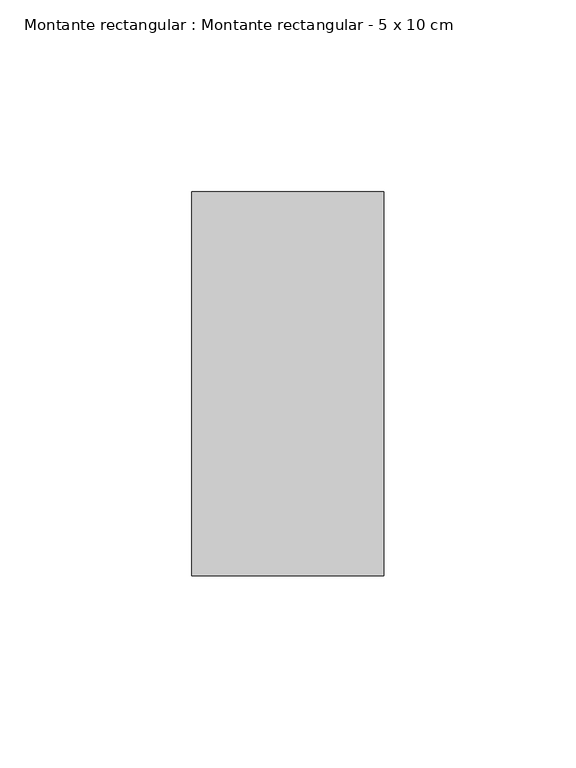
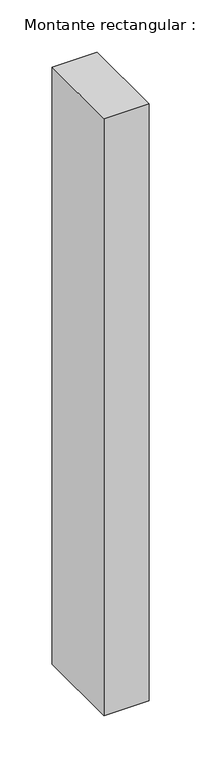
"""IFC4 building model written with IfcOpenShell, lengths in millimetres: member geometry, Montante rectangular : Montante rectangular - 5 x 10 cm."""

import ifcopenshell
import ifcopenshell.guid

model = None  # the IFC model being written
_history = None  # IfcOwnerHistory: only IFC2X3 demands one
_inside = {}  # id of a spatial element -> (the spatial element, [elements in it])
_under = {}  # id of a project, library or spatial element -> (it, [spatial elements below it])
_declared = {}  # id of a project -> (the project, [libraries it declares])
_typed = {}  # id of a type object -> (the type object, [elements of that type])
_made_of = {}  # id of a material, layer set ... -> (it, [elements and type objects made of it])


def new_model(schema):
    """Start an empty IFC model of exactly this schema.

    Asked for "IFC4X3", IfcOpenShell would pick the latest addendum, in which some entities
    have other attributes; the version numbers below select the first issue.
    IFC2X3 requires an IfcOwnerHistory on every rooted entity: one is made here for all.
    """
    global model, _history
    if schema == "IFC4X3":
        model = ifcopenshell.file(schema_version=(4, 3, 0, 0))
    else:
        model = ifcopenshell.file(schema=schema)
    _inside.clear()
    _under.clear()
    _declared.clear()
    _typed.clear()
    _made_of.clear()
    _history = None
    if model.schema == "IFC2X3":
        org = make("IfcOrganization", Name="unknown")
        user = make(
            "IfcPersonAndOrganization",
            ThePerson=make("IfcPerson", FamilyName="unknown"),
            TheOrganization=org,
        )
        app = make(
            "IfcApplication",
            ApplicationDeveloper=org,
            Version="unknown",
            ApplicationFullName="unknown",
            ApplicationIdentifier="unknown",
        )
        _history = make(
            "IfcOwnerHistory",
            OwningUser=user,
            OwningApplication=app,
            ChangeAction="ADDED",
            CreationDate=0,
        )
    return model


def make(cls, **values):
    """One entity of the class cls with the attributes given. An attribute that is None is left unset."""
    return model.create_entity(
        cls, **{name: value for name, value in values.items() if value is not None}
    )


def rooted(cls, **values):
    """An entity with a GlobalId (a new one), such as an element, a storey or a relation."""
    return make(cls, GlobalId=ifcopenshell.guid.new(), OwnerHistory=_history, **values)


def si_unit(unit_type, name, prefix=None):
    """IfcSIUnit, for example si_unit("LENGTHUNIT", "METRE", prefix="MILLI")."""
    return make("IfcSIUnit", UnitType=unit_type, Prefix=prefix, Name=name)


def assignment(units):
    """IfcUnitAssignment: the units of a project."""
    return None if units is None else make("IfcUnitAssignment", Units=units)


def point(xyz):
    """IfcCartesianPoint."""
    return None if xyz is None else make("IfcCartesianPoint", Coordinates=xyz)


def direction(xyz):
    """IfcDirection."""
    return None if xyz is None else make("IfcDirection", DirectionRatios=xyz)


def frame(location, z_axis=None, x_axis=None):
    """IfcAxis2Placement3D, a coordinate frame: its origin and axes. An axis left out is left unset."""
    return make(
        "IfcAxis2Placement3D",
        Location=point(location),
        Axis=direction(z_axis),
        RefDirection=direction(x_axis),
    )


def origin():
    """The frame at (0, 0, 0) with its axes left unset."""
    return frame((0.0, 0.0, 0.0))


def place(relative_to, where):
    """IfcLocalPlacement: puts the frame where relative to a parent placement (None: the world)."""
    return make(
        "IfcLocalPlacement", PlacementRelTo=relative_to, RelativePlacement=where
    )


def context(
    kind, dimensions, precision=None, world=None, true_north=None, identifier=None
):
    """IfcGeometricRepresentationContext, for example the 3D "Model" context."""
    return make(
        "IfcGeometricRepresentationContext",
        ContextIdentifier=identifier,
        ContextType=kind,
        CoordinateSpaceDimension=dimensions,
        Precision=precision,
        WorldCoordinateSystem=world,
        TrueNorth=true_north,
    )


def project(units=None, contexts=None):
    """IfcProject with its units and contexts."""
    return rooted(
        "IfcProject",
        Name="project",
        RepresentationContexts=contexts,
        UnitsInContext=assignment(units),
    )


def spatial(cls, under=None, at=None, **own):
    """A site, building, storey or space (cls), placed at a placement, below another one or the project."""
    s = rooted(cls, ObjectPlacement=at, **own)
    if under is not None:
        _under.setdefault(under.id(), (under, []))[1].append(s)
    return s


def polyline(points):
    """IfcPolyline through the points."""
    return make("IfcPolyline", Points=[point(p) for p in points])


def outline(outer, holes=None, kind="AREA"):
    """IfcArbitraryClosedProfileDef: a profile drawn as a closed curve; with holes, ...WithVoids."""
    if holes is None:
        return make("IfcArbitraryClosedProfileDef", ProfileType=kind, OuterCurve=outer)
    return make(
        "IfcArbitraryProfileDefWithVoids",
        ProfileType=kind,
        OuterCurve=outer,
        InnerCurves=holes,
    )


def extrude(swept, where, along, depth):
    """IfcExtrudedAreaSolid: the profile swept, set in the frame where, extruded along a direction by depth."""
    return make(
        "IfcExtrudedAreaSolid",
        SweptArea=swept,
        Position=where,
        ExtrudedDirection=direction(along),
        Depth=depth,
    )


def shape(context_of_items, identifier, shape_type, items):
    """IfcShapeRepresentation: the items that make up one representation, for example the "Body"."""
    return make(
        "IfcShapeRepresentation",
        ContextOfItems=context_of_items,
        RepresentationIdentifier=identifier,
        RepresentationType=shape_type,
        Items=items,
    )


def source(mapping_origin, context_of_items, identifier, shape_type, items):
    """IfcRepresentationMap: a shape defined once, which mapped items show again and again."""
    return make(
        "IfcRepresentationMap",
        MappingOrigin=mapping_origin,
        MappedRepresentation=shape(context_of_items, identifier, shape_type, items),
    )


def transform(
    local_origin,
    x_axis=None,
    y_axis=None,
    z_axis=None,
    scale=None,
    scale2=None,
    scale3=None,
    uniform=True,
):
    """IfcCartesianTransformationOperator3D, or its non-uniform kind. x_axis, y_axis, z_axis: its Axis1, 2, 3."""
    if uniform:
        return make(
            "IfcCartesianTransformationOperator3D",
            Axis1=direction(x_axis),
            Axis2=direction(y_axis),
            LocalOrigin=point(local_origin),
            Scale=scale,
            Axis3=direction(z_axis),
        )
    return make(
        "IfcCartesianTransformationOperator3DnonUniform",
        Axis1=direction(x_axis),
        Axis2=direction(y_axis),
        LocalOrigin=point(local_origin),
        Scale=scale,
        Axis3=direction(z_axis),
        Scale2=scale2,
        Scale3=scale3,
    )


def mapped(mapping_source, mapping_target):
    """IfcMappedItem: shows the shape of a source again, moved by a transform."""
    return make(
        "IfcMappedItem", MappingSource=mapping_source, MappingTarget=mapping_target
    )


def made_of(thing, what):
    """Note that an element or type object is made of a material, layer set ...; save() writes the relation."""
    if what is not None:
        _made_of.setdefault(what.id(), (what, []))[1].append(thing)
    return thing


def element(
    cls,
    number,
    at=None,
    inside=None,
    cuts=None,
    type_object=None,
    material=None,
    context=None,
    identifier="Body",
    shape_type=None,
    held_by="IfcProductDefinitionShape",
    body=None,
    shapes=None,
    **own,
):
    """One element of the class cls, such as IfcWall. Its Tag is "e" and its number.

    at: its placement. inside: the storey or other place that contains it. cuts: it is an
    opening in that element (IfcRelVoidsElement). A single representation is given by context,
    identifier, shape_type and body (its items); several are given by shapes. held_by: the class
    of the entity that holds the representations. save() writes the other relations.
    """
    e = rooted(cls, Tag="e%d" % number, ObjectPlacement=at, **own)
    if body is not None:
        shapes = [shape(context, identifier, shape_type, body)]
    if shapes is not None:
        e.Representation = make(held_by, Representations=shapes)
    if inside is not None:
        _inside.setdefault(inside.id(), (inside, []))[1].append(e)
    if cuts is not None:
        rooted(
            "IfcRelVoidsElement", RelatingBuildingElement=cuts, RelatedOpeningElement=e
        )
    if type_object is not None:
        _typed.setdefault(type_object.id(), (type_object, []))[1].append(e)
    return made_of(e, material)


def aggregate(whole, parts):
    """IfcRelAggregates: a whole, such as a stair, and the parts it consists of."""
    return rooted("IfcRelAggregates", RelatingObject=whole, RelatedObjects=parts)


def save(model, path):
    """Write the relations noted so far, then the file.

    IfcRelAggregates (storeys below a building ...), IfcRelContainedInSpatialStructure (elements
    in a storey), IfcRelDefinesByType, IfcRelAssociatesMaterial and IfcRelDeclares: one each for
    every whole, place, type object, material and project.
    """
    for whole, parts in _under.values():
        aggregate(whole, parts)
    for where, things in _inside.values():
        rooted(
            "IfcRelContainedInSpatialStructure",
            RelatedElements=things,
            RelatingStructure=where,
        )
    for kind, things in _typed.values():
        rooted("IfcRelDefinesByType", RelatedObjects=things, RelatingType=kind)
    for what, things in _made_of.values():
        rooted("IfcRelAssociatesMaterial", RelatedObjects=things, RelatingMaterial=what)
    for by, libraries in _declared.values():
        rooted("IfcRelDeclares", RelatingContext=by, RelatedDefinitions=libraries)
    model.write(path)


def montante_rectangular_montante_rectangular_5_x_10_cm_8c623952(model_context):
    return source(origin(), model_context, "Body", "SweptSolid", [
        extrude(outline(polyline([(-50.0, 50.0), (0.0, 50.0), (0.0, -50.0), (-50.0, -50.0), (-50.0, 50.0)])), frame((0.0, 0.0, -700.0), z_axis=(0.0, 0.0, 1.0), x_axis=(1.0, 0.0, 0.0)), (0.0, 0.0, 1.0), 700.0),
    ])


if __name__ == "__main__":
    model = new_model("IFC4")
    model_context = context("Model", 3, world=origin())
    ifc_project = project(units=[si_unit("LENGTHUNIT", "METRE", prefix="MILLI")], contexts=[model_context])
    site = spatial("IfcSite", under=ifc_project)
    building = spatial("IfcBuilding", under=site)
    placement = place(None, origin())
    montante_rectangular_montante_rectangular_5_x_10_cm_shape = montante_rectangular_montante_rectangular_5_x_10_cm_8c623952(model_context)
    element("IfcMember", 1, ObjectType="Montante rectangular : Montante rectangular - 5 x 10 cm", at=placement, inside=building, context=model_context, shape_type="MappedRepresentation", body=[
        mapped(montante_rectangular_montante_rectangular_5_x_10_cm_shape, transform((0.0, 0.0, 0.0), x_axis=(1.0, 0.0, 0.0), y_axis=(0.0, 1.0, 0.0), z_axis=(0.0, 0.0, 1.0))),
    ])
    save(model, "model.ifc")
